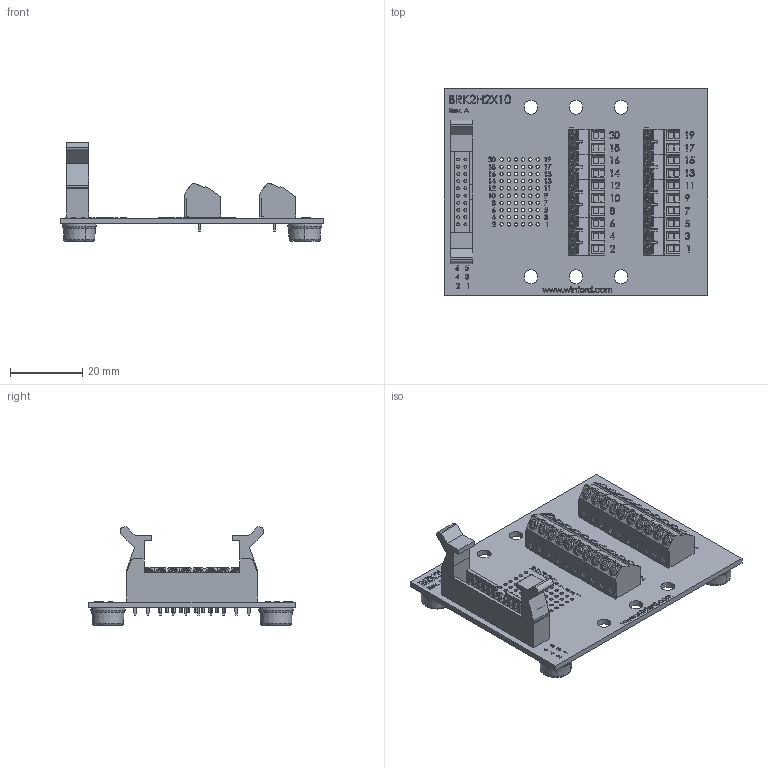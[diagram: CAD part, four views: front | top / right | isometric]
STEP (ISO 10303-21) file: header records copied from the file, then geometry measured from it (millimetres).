
FILE_DESCRIPTION (( 'STEP AP214' ), '1' );
FILE_NAME ('brk2h2x10-l-ft_rev_a.step', '2022-08-19T15:54:04', ( '' ), ( '' ), 'SwSTEP 2.0', 'SolidWorks 2018', '' );
FILE_SCHEMA (( 'AUTOMOTIVE_DESIGN' ));
Length unit declared in the file: inch
Products named in the file (6): Eurostyle PCB Terminal 3; RubberFoot; 2mm Pitch Header 2x10; brk2h2x10-l-ft_rev_a; BRK2H2X10 Board; Eurostyle PCB Terminal 2
Assembly tree (14 placements, depth 2):
  brk2h2x10-l-ft_rev_a
    BRK2H2X10 Board
    RubberFoot  x4
    2mm Pitch Header 2x10
    Eurostyle PCB Terminal 2  x4
    Eurostyle PCB Terminal 3  x4
Bounding box: 73.03 x 57.15 x 27.26 mm (x, y, z)
Volume: 9301.1 mm3; surface area: 18971.2 mm2
Topology: 8 solids, 32 shells, 3729 faces, 9865 edges, 6506 vertices
Faces by surface type: plane 2408, bspline 704, cylinder 553, cone 48, torus 16
Entity records: 115754 total; most frequent: CARTESIAN_POINT 46508, ORIENTED_EDGE 11090, DIRECTION 8392, EDGE_CURVE 5551, VERTEX_POINT 3683, VECTOR 3618, LINE 3618, EDGE_LOOP 2524
